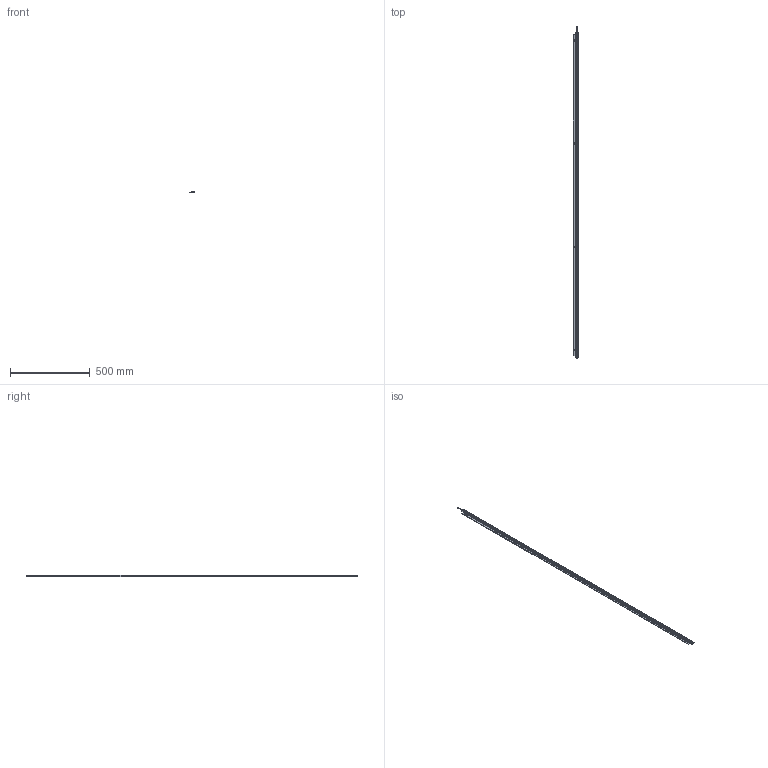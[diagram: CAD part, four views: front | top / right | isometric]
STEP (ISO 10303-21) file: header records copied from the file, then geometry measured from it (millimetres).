
FILE_DESCRIPTION (( 'STEP AP214' ), '1' );
FILE_NAME ('ILGA-L-K1-2040mm.STEP', '2026-04-24T23:07:49', ( '' ), ( '' ), 'SwSTEP 2.0', 'SolidWorks 2025', '' );
FILE_SCHEMA (( 'AUTOMOTIVE_DESIGN' ));
Length unit declared in the file: millimetre
Products named in the file (1): ILGA-L-K1-2040mm
Bounding box: 35 x 2080 x 10.7 mm (x, y, z)
Volume: 211610.4 mm3; surface area: 314046.4 mm2
Topology: 9 solids, 9 shells, 680 faces, 1768 edges, 1080 vertices
Faces by surface type: plane 293, cylinder 245, cone 60, torus 42, bspline 24, sphere 16
Entity records: 28575 total; most frequent: CARTESIAN_POINT 4429, DIRECTION 3606, ORIENTED_EDGE 3448, EDGE_CURVE 1724, AXIS2_PLACEMENT_3D 1345, VERTEX_POINT 1080, VECTOR 916, LINE 916
